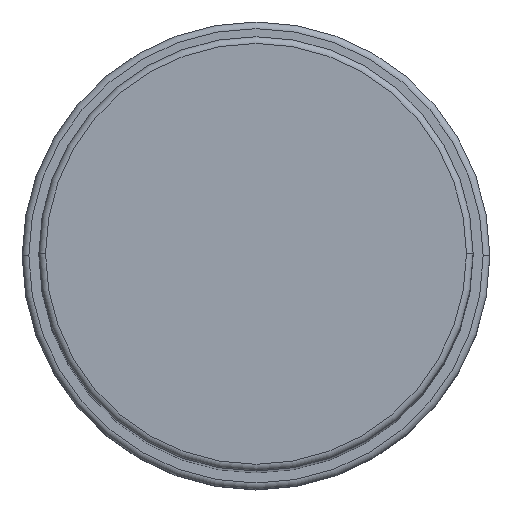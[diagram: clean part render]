
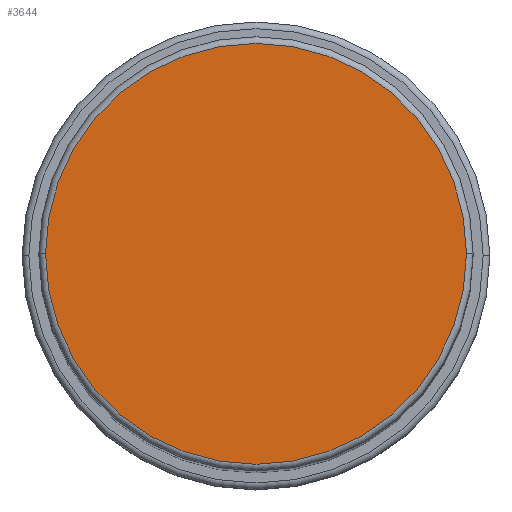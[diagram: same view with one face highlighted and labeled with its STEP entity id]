
A CAD part, top view. The second image highlights one B-rep face of the part: STEP entity #3644.
In plain terms, the highlighted planar face has unit normal (0, 0, 1).
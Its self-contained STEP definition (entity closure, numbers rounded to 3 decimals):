
#111 = AXIS2_PLACEMENT_3D ( 'NONE', #1849, #3037, #4778 ) ;
#120 = PLANE ( 'NONE',  #1285 ) ;
#368 = FACE_OUTER_BOUND ( 'NONE', #2496, .T. ) ;
#625 = ORIENTED_EDGE ( 'NONE', *, *, #2888, .T. ) ;
#629 = DIRECTION ( 'NONE',  ( 0., 0., 1. ) ) ;
#1208 = EDGE_CURVE ( 'NONE', #4608, #3965, #3678, .T. ) ;
#1285 = AXIS2_PLACEMENT_3D ( 'NONE', #5151, #1325, #2222 ) ;
#1325 = DIRECTION ( 'NONE',  ( 0., 0., 1. ) ) ;
#1849 = CARTESIAN_POINT ( 'NONE',  ( 0., 0., 183. ) ) ;
#2186 = CIRCLE ( 'NONE', #111, 31.5 ) ;
#2222 = DIRECTION ( 'NONE',  ( 1., 0., 0. ) ) ;
#2322 = AXIS2_PLACEMENT_3D ( 'NONE', #4828, #629, #3526 ) ;
#2496 = EDGE_LOOP ( 'NONE', ( #3640, #625 ) ) ;
#2888 = EDGE_CURVE ( 'NONE', #3965, #4608, #2186, .T. ) ;
#3037 = DIRECTION ( 'NONE',  ( 0., 0., 1. ) ) ;
#3291 = CARTESIAN_POINT ( 'NONE',  ( -31.5, 0., 183. ) ) ;
#3526 = DIRECTION ( 'NONE',  ( 1., 0., 0. ) ) ;
#3640 = ORIENTED_EDGE ( 'NONE', *, *, #1208, .T. ) ;
#3644 = ADVANCED_FACE ( 'NONE', ( #368 ), #120, .T. ) ;
#3678 = CIRCLE ( 'NONE', #2322, 31.5 ) ;
#3903 = CARTESIAN_POINT ( 'NONE',  ( 31.5, 0., 183. ) ) ;
#3965 = VERTEX_POINT ( 'NONE', #3291 ) ;
#4608 = VERTEX_POINT ( 'NONE', #3903 ) ;
#4778 = DIRECTION ( 'NONE',  ( 1., 0., 0. ) ) ;
#4828 = CARTESIAN_POINT ( 'NONE',  ( 0., 0., 183. ) ) ;
#5151 = CARTESIAN_POINT ( 'NONE',  ( 0., 0., 183. ) ) ;
